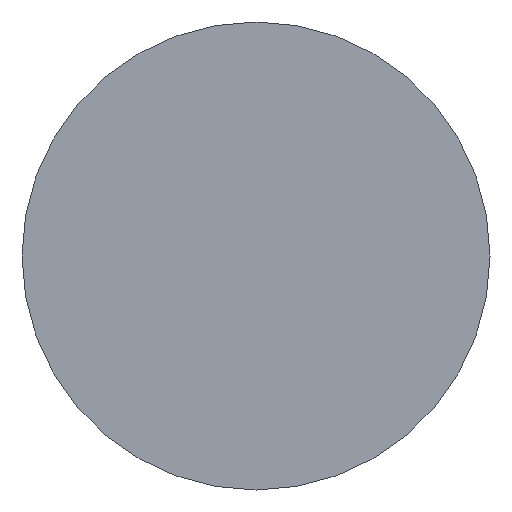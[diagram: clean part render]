
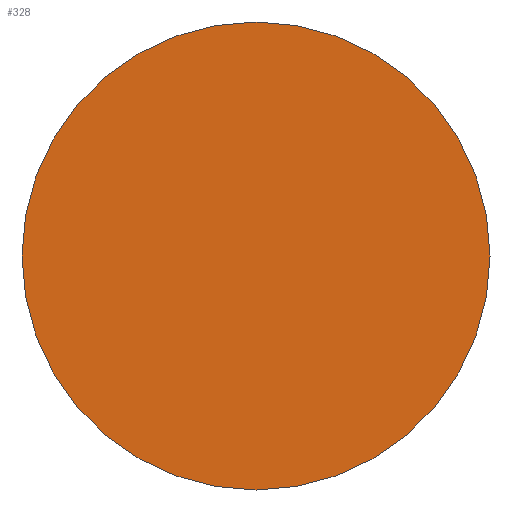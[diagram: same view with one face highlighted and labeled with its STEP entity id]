
A CAD part, left-side view. The second image highlights one B-rep face of the part: STEP entity #328.
In plain terms, the highlighted planar face has unit normal (-1, 0, 0).
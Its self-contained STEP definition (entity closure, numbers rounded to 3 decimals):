
#16=PLANE('',#403);
#35=FACE_OUTER_BOUND('',#51,.T.);
#51=EDGE_LOOP('',(#296,#297));
#112=CIRCLE('',#404,5.535);
#113=CIRCLE('',#405,5.535);
#149=VERTEX_POINT('',#632);
#150=VERTEX_POINT('',#633);
#199=EDGE_CURVE('',#149,#150,#112,.T.);
#200=EDGE_CURVE('',#150,#149,#113,.T.);
#296=ORIENTED_EDGE('',*,*,#199,.F.);
#297=ORIENTED_EDGE('',*,*,#200,.F.);
#328=ADVANCED_FACE('',(#35),#16,.T.);
#403=AXIS2_PLACEMENT_3D('',#631,#524,#525);
#404=AXIS2_PLACEMENT_3D('',#634,#526,#527);
#405=AXIS2_PLACEMENT_3D('',#635,#528,#529);
#524=DIRECTION('center_axis',(-1.,0.,0.));
#525=DIRECTION('ref_axis',(0.,0.,1.));
#526=DIRECTION('center_axis',(1.,0.,0.));
#527=DIRECTION('ref_axis',(0.,0.,-1.));
#528=DIRECTION('center_axis',(1.,0.,0.));
#529=DIRECTION('ref_axis',(0.,0.,-1.));
#631=CARTESIAN_POINT('Origin',(0.,5.535,0.));
#632=CARTESIAN_POINT('',(0.,5.535,0.));
#633=CARTESIAN_POINT('',(0.,-5.535,0.));
#634=CARTESIAN_POINT('Origin',(0.,0.,0.));
#635=CARTESIAN_POINT('Origin',(0.,0.,0.));
